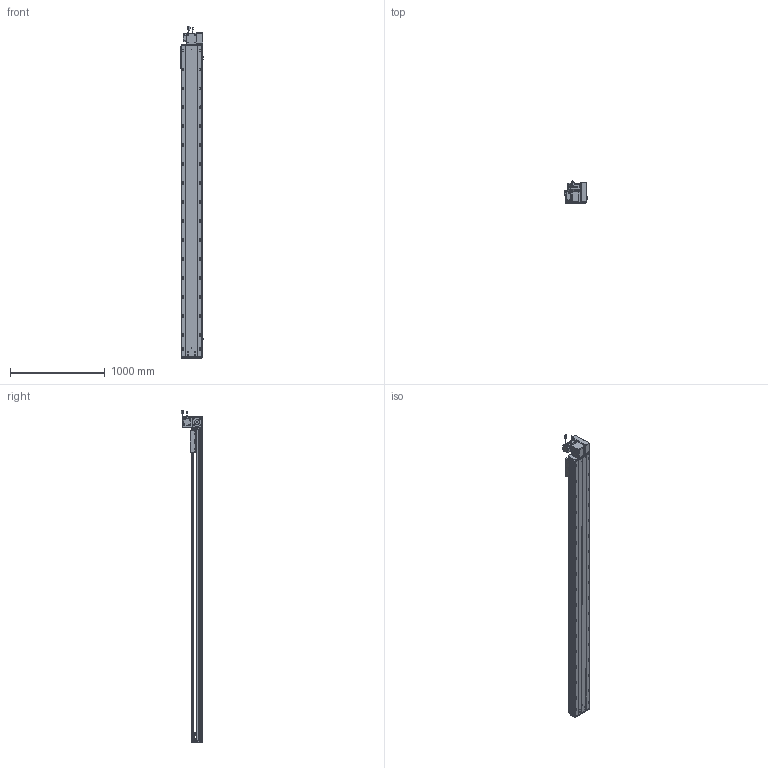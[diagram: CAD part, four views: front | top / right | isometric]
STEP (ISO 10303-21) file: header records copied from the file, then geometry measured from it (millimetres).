
FILE_DESCRIPTION (( 'STEP AP203' ), '1' );
FILE_NAME ('RY220-T-300-UR.SLDASM_2950.step', '2022-07-25T08:46:05', ( '' ), ( '' ), 'SwSTEP 2.0', 'SolidWorks 2016', '' );
FILE_SCHEMA (( 'CONFIG_CONTROL_DESIGN' ));
Length unit declared in the file: millimetre
Products named in the file (14): RY220翋肮祭謫釱; RY220-T菁釱-300_2950; RY220翋肮祭謫裔啣; 覜茼ん672; RY220-同步轮副支撑座6304×2; 滅袉蝶18-15; RY220-T-蛌殏萇儂假蚾啣(750W); RY220圉猾敕々湍臏賑輸; RY220-T-300-UR.SLDASM_2950; RY220-T-湍謫欶(鍼踢); RY220-俋离672覜茼んえ; 怢湛750W_ECMA-CX0807ES; RY220-T-300-奻裔啣_2950; 110A-T-肮祭謫釱傷裔
Assembly tree (18 placements, depth 2):
  RY220-T-300-UR.SLDASM_2950
    RY220-T菁釱-300_2950
    RY220翋肮祭謫釱
    覜茼ん672  x3
    RY220圉猾敕々湍臏賑輸
    RY220-T-300-奻裔啣_2950
    RY220-俋离672覜茼んえ
    滅袉蝶18-15  x3
    RY220翋肮祭謫裔啣  x2
    110A-T-肮祭謫釱傷裔
    怢湛750W_ECMA-CX0807ES
    RY220-T-湍謫欶(鍼踢)
    RY220-T-蛌殏萇儂假蚾啣(750W)
    RY220-同步轮副支撑座6304×2
Bounding box: 238.7 x 231.74 x 3503.27 mm (x, y, z)
Volume: 24880005.2 mm3; surface area: 7693573.9 mm2
Topology: 19 solids, 19 shells, 3020 faces, 8355 edges, 5230 vertices
Faces by surface type: cylinder 1492, plane 1069, cone 377, bspline 56, sphere 16, torus 10
Entity records: 100723 total; most frequent: CARTESIAN_POINT 28401, ORIENTED_EDGE 14938, DIRECTION 14436, EDGE_CURVE 7469, AXIS2_PLACEMENT_3D 5214, VERTEX_POINT 4854, LINE 4008, VECTOR 4008
